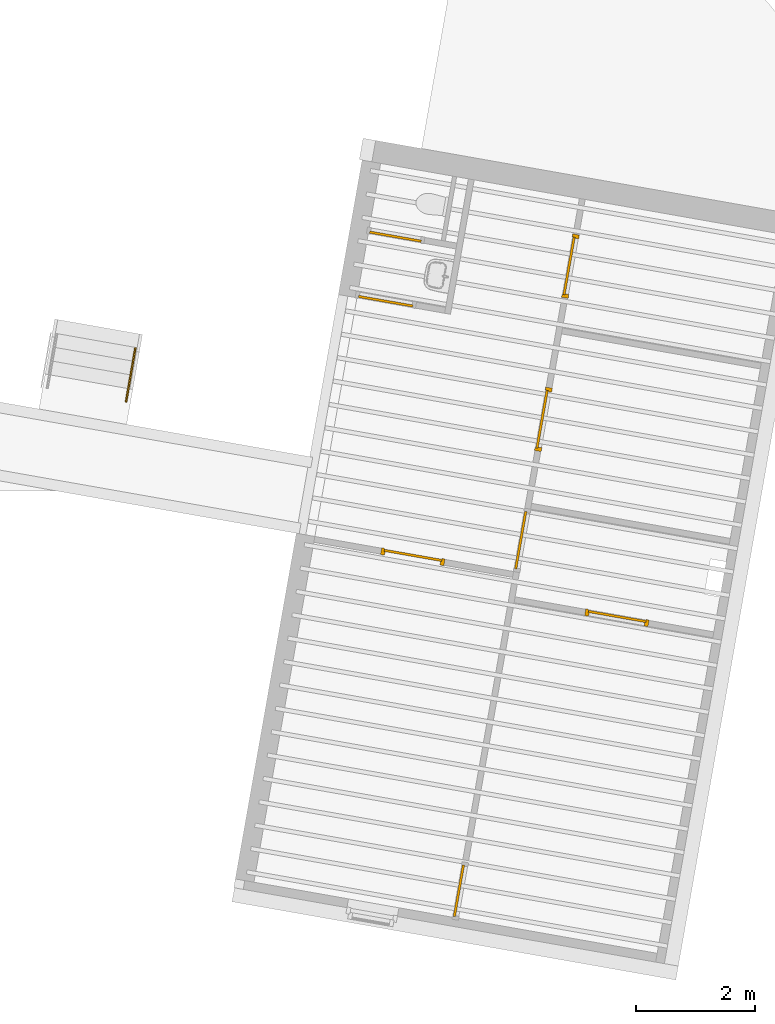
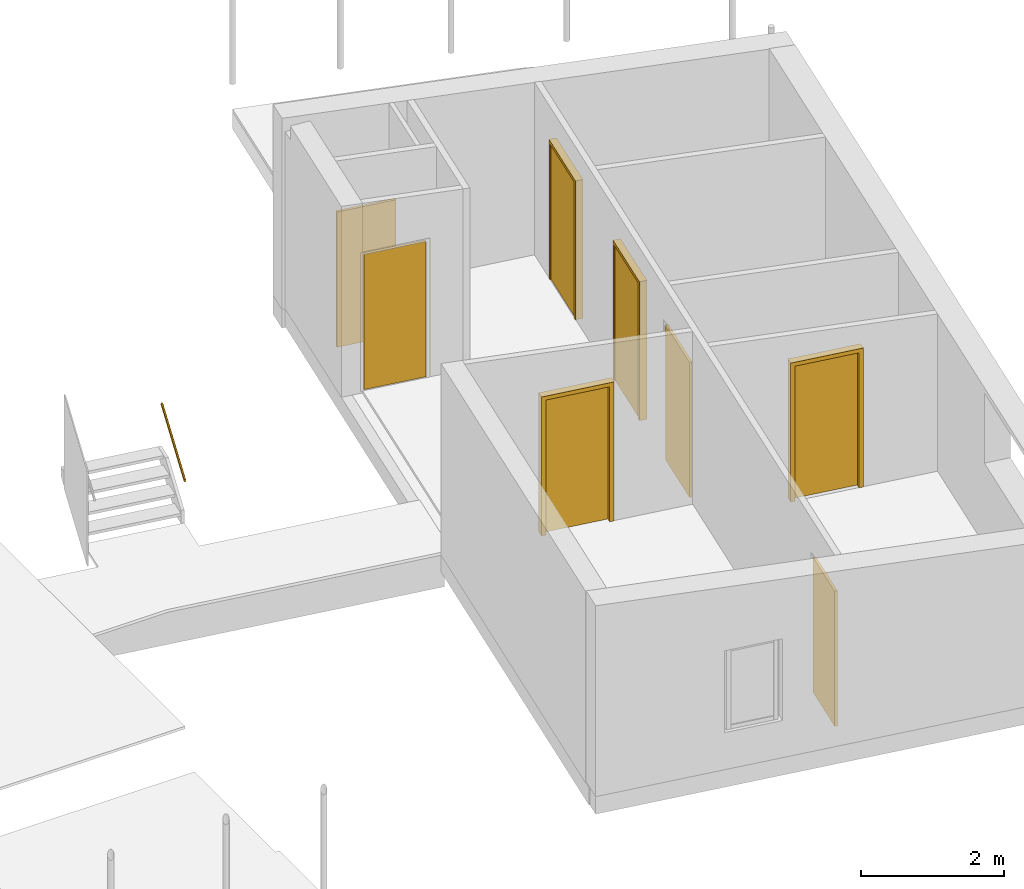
# One storey, part 6 of 7: 12 doors, 1 railing, 1 element without a shape of its own.
"""IFC2X3 building model written with IfcOpenShell, lengths in millimetres."""

from ifc_helpers import new_model, entity, si_unit, converted_unit, derived_unit, direction, frame, origin, origin_2d_with_axis, place, context, subcontext, project, spatial, rectangle, extrude, faceted_brep, source, transform, mapped, material, material_list, type_object, type_shapes, element, aggregate, save


model = new_model("IFC2X3")

# Units and contexts
model_context = context("Model", 3, precision=0.01, world=origin(), true_north=direction((6.12303176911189e-17, 1.0)))
body_context = subcontext(model_context, "Body", "Model", "MODEL_VIEW")
ifc_project = project(units=[si_unit("LENGTHUNIT", "METRE", prefix="MILLI"), si_unit("AREAUNIT", "SQUARE_METRE"), si_unit("VOLUMEUNIT", "CUBIC_METRE"), converted_unit("PLANEANGLEUNIT", "DEGREE", entity("IfcRatioMeasure", 0.0174532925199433), si_unit("PLANEANGLEUNIT", "RADIAN"), dimensions=[0, 0, 0, 0, 0, 0, 0]), si_unit("MASSUNIT", "GRAM", prefix="KILO"), derived_unit("MASSDENSITYUNIT", [(si_unit("MASSUNIT", "GRAM", prefix="KILO"), 1), (si_unit("LENGTHUNIT", "METRE"), -3)]), derived_unit("MOMENTOFINERTIAUNIT", [(si_unit("LENGTHUNIT", "METRE"), 4)]), si_unit("TIMEUNIT", "SECOND"), si_unit("FREQUENCYUNIT", "HERTZ"), si_unit("THERMODYNAMICTEMPERATUREUNIT", "DEGREE_CELSIUS"), derived_unit("THERMALTRANSMITTANCEUNIT", [(si_unit("MASSUNIT", "GRAM", prefix="KILO"), 1), (si_unit("THERMODYNAMICTEMPERATUREUNIT", "KELVIN"), -1), (si_unit("TIMEUNIT", "SECOND"), -3)]), derived_unit("VOLUMETRICFLOWRATEUNIT", [(si_unit("LENGTHUNIT", "METRE"), 3), (si_unit("TIMEUNIT", "SECOND"), -1)]), si_unit("ELECTRICCURRENTUNIT", "AMPERE"), si_unit("ELECTRICVOLTAGEUNIT", "VOLT"), si_unit("POWERUNIT", "WATT"), si_unit("FORCEUNIT", "NEWTON", prefix="KILO"), si_unit("ILLUMINANCEUNIT", "LUX"), si_unit("LUMINOUSFLUXUNIT", "LUMEN"), si_unit("LUMINOUSINTENSITYUNIT", "CANDELA"), derived_unit("USERDEFINED", [(si_unit("MASSUNIT", "GRAM", prefix="KILO"), -1), (si_unit("LENGTHUNIT", "METRE"), -2), (si_unit("TIMEUNIT", "SECOND"), 3), (si_unit("LUMINOUSFLUXUNIT", "LUMEN"), 1)]), derived_unit("LINEARVELOCITYUNIT", [(si_unit("LENGTHUNIT", "METRE"), 1), (si_unit("TIMEUNIT", "SECOND"), -1)]), si_unit("PRESSUREUNIT", "PASCAL"), derived_unit("USERDEFINED", [(si_unit("LENGTHUNIT", "METRE"), -2), (si_unit("MASSUNIT", "GRAM", prefix="KILO"), 1), (si_unit("TIMEUNIT", "SECOND"), -2)]), derived_unit("LINEARFORCEUNIT", [(si_unit("MASSUNIT", "GRAM", prefix="KILO"), 1), (si_unit("LENGTHUNIT", "METRE"), 1), (si_unit("TIMEUNIT", "SECOND"), -2), (si_unit("LENGTHUNIT", "METRE"), -1)]), derived_unit("PLANARFORCEUNIT", [(si_unit("MASSUNIT", "GRAM", prefix="KILO"), 1), (si_unit("LENGTHUNIT", "METRE"), 1), (si_unit("TIMEUNIT", "SECOND"), -2), (si_unit("LENGTHUNIT", "METRE"), -2)])], contexts=[model_context])

# Site, building, storey
site_placement = place(None, origin())
site = spatial("IfcSite", under=ifc_project, at=site_placement, Name="<Kadaster Gemeente>;<Kadaster nummer>;<Kadaster sectie>", CompositionType="ELEMENT")
building_placement = place(site_placement, origin())
building = spatial("IfcBuilding", under=site, at=building_placement, Name="JRCZ Middelburg", CompositionType="ELEMENT")
storey_placement = place(building_placement, frame((0.0, 0.0, 3000.0)))
storey = spatial("IfcBuildingStorey", under=building, at=storey_placement, Name="01 eerste verdieping", CompositionType="ELEMENT", Elevation=3000.0)

# Doors
ifc_material = material(Name="<Unnamed>")
ifc_material_list_1 = material_list([ifc_material, ifc_material])
door_style_1 = type_object("IfcDoorStyle", Name="NLRS_32_DO_ISR_onderdeel deur-SH_generiek_ISR:dichte deur_gen", ConstructionType="USERDEFINED", OperationType="SINGLE_SWING_RIGHT", ParameterTakesPrecedence=False, Sizeable=False, material=ifc_material_list_1)
shared_shape_1 = source(origin(), body_context, "Body", "SweptSolid", [
    extrude(rectangle(XDim=929.999999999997, YDim=40.0, at=origin_2d_with_axis()), frame((0.0, 20.0, 0.0), z_axis=(0.0, 0.0, 1.0), x_axis=(-1.0, 0.0, 0.0)), (0.0, 0.0, 1.0), 2315.0),
])
type_shapes(door_style_1, [shared_shape_1])
door_1_placement = place(storey_placement, frame((24280.5330340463, 16792.7089152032, 10.0), z_axis=(0.0, 0.0, 1.0), x_axis=(0.984807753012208, -0.173648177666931, 0.0)))
element("IfcDoor", 1, at=door_1_placement, inside=storey, type_object=door_style_1, material=ifc_material, Name="NLRS_32_DO_ISR_onderdeel deur-SH_generiek_ISR:dichte deur_gen", ObjectType="NLRS_32_DO_ISR_onderdeel deur-SH_generiek_ISR:dichte deur_gen", OverallHeight=2315.0, OverallWidth=930.000000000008, context=body_context, shape_type="MappedRepresentation", body=[
    mapped(shared_shape_1, transform((0.0, 0.0, 0.0), scale=1.0)),
])
ifc_material_list_2 = material_list([ifc_material, ifc_material])
door_style_2 = type_object("IfcDoorStyle", Name="NLRS_32_DO_ISR_onderdeel deur-SH_generiek_ISR:dichte deur_gen", ConstructionType="USERDEFINED", OperationType="SINGLE_SWING_RIGHT", ParameterTakesPrecedence=False, Sizeable=False, material=ifc_material_list_2)
shared_shape_2 = source(origin(), body_context, "Body", "SweptSolid", [
    extrude(rectangle(XDim=40.0, YDim=979.999999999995, at=origin_2d_with_axis()), frame((0.0, -20.0, 0.0), z_axis=(0.0, 0.0, 1.0), x_axis=(0.0, 1.0, 0.0)), (0.0, 0.0, 1.0), 2315.0),
])
type_shapes(door_style_2, [shared_shape_2])
door_2_placement = place(storey_placement, frame((26541.863905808, 12790.2262246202, 10.0), z_axis=(0.0, 0.0, 1.0), x_axis=(0.17364817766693, 0.984807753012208, 0.0)))
element("IfcDoor", 2, at=door_2_placement, inside=storey, type_object=door_style_2, material=ifc_material, Name="NLRS_32_DO_ISR_onderdeel deur-SH_generiek_ISR:dichte deur_gen", ObjectType="NLRS_32_DO_ISR_onderdeel deur-SH_generiek_ISR:dichte deur_gen", OverallHeight=2315.0, OverallWidth=980.000000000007, context=body_context, shape_type="MappedRepresentation", body=[
    mapped(shared_shape_2, transform((0.0, 0.0, 0.0), scale=1.0)),
])
ifc_material_list_3 = material_list([ifc_material, ifc_material, ifc_material])
ifc_material_list_4 = material_list([ifc_material, ifc_material])
door_style_3 = type_object("IfcDoorStyle", Name="NLRS_32_DO_UN_samenstelling binnenkozijn hout-SH_generiek_ISR:enkele deur_gen", ConstructionType="USERDEFINED", OperationType="NOTDEFINED", ParameterTakesPrecedence=False, Sizeable=False, material=ifc_material_list_4)
shared_shape_3 = source(origin(), body_context, "Body", "Brep", [
    faceted_brep([(492.0, 0.0, 0.0), (492.0, 54.0, 0.0), (475.0, 54.0, 0.0), (475.0, 114.0, 0.0), (542.0, 114.0, 0.0), (542.0, 0.0, 0.0), (492.0, 0.0, 2327.0), (492.0, 54.0, 2327.0), (492.0, 54.0, 2310.0), (475.0, 54.0, 2310.0), (475.0, 114.0, 2310.0), (542.0, 114.0, 2310.0), (542.0, 54.0, 2310.0), (542.0, 54.0, 2327.0), (542.0, 0.0, 2327.0)], [[[0, 1, 2, 3, 4, 5]], [[6, 7, 8, 1, 0]], [[2, 1, 8, 9]], [[3, 2, 9, 10]], [[4, 3, 10, 11]], [[5, 4, 11, 12, 13, 14]], [[14, 6, 0, 5]], [[6, 14, 13, 7]], [[8, 12, 11, 10, 9]], [[12, 8, 7, 13]]]),
    faceted_brep([(-542.0, 0.0, 2327.0), (-542.0, 0.0, 2377.0), (-542.0, 114.0, 2377.0), (-542.0, 114.0, 2310.0), (-542.0, 54.0, 2310.0), (-542.0, 54.0, 2327.0), (542.0, 0.0, 2327.0), (542.0, 54.0, 2327.0), (542.0, 54.0, 2310.0), (542.0, 114.0, 2310.0), (542.0, 114.0, 2377.0), (542.0, 0.0, 2377.0)], [[[0, 1, 2, 3, 4, 5]], [[6, 7, 8, 9, 10, 11]], [[5, 7, 6, 0]], [[4, 8, 7, 5]], [[3, 9, 8, 4]], [[2, 10, 9, 3]], [[1, 11, 10, 2]], [[0, 6, 11, 1]]]),
    faceted_brep([(-492.0, 0.0, 0.0), (-542.0, 0.0, 0.0), (-542.0, 114.0, 0.0), (-475.0, 114.0, 0.0), (-475.0, 54.0, 0.0), (-492.0, 54.0, 0.0), (-492.0, 0.0, 2327.0), (-492.0, 54.0, 2310.0), (-492.0, 54.0, 2327.0), (-475.0, 54.0, 2310.0), (-475.0, 114.0, 2310.0), (-542.0, 114.0, 2310.0), (-542.0, 0.0, 2327.0), (-542.0, 54.0, 2327.0), (-542.0, 54.0, 2310.0)], [[[0, 1, 2, 3, 4, 5]], [[6, 0, 5, 7, 8]], [[4, 9, 7, 5]], [[3, 10, 9, 4]], [[2, 11, 10, 3]], [[1, 12, 13, 14, 11, 2]], [[12, 1, 0, 6]], [[6, 8, 13, 12]], [[7, 9, 10, 11, 14]], [[14, 13, 8, 7]]]),
])
type_shapes(door_style_3, [shared_shape_3])
door_3_placement = place(storey_placement, frame((26887.5283250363, 14831.2093478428, 0.0), z_axis=(0.0, 0.0, 1.0), x_axis=(-0.17364817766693, -0.984807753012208, 0.0)))
element("IfcDoor", 3, at=door_3_placement, inside=storey, type_object=door_style_3, material=ifc_material_list_3, Name="NLRS_32_DO_UN_samenstelling binnenkozijn hout-SH_generiek_ISR:enkele deur_gen", ObjectType="NLRS_32_DO_UN_samenstelling binnenkozijn hout-SH_generiek_ISR:enkele deur_gen", OverallHeight=2377.00000000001, OverallWidth=1084.0, context=body_context, shape_type="MappedRepresentation", body=[
    mapped(shared_shape_3, transform((0.0, 0.0, 0.0), scale=1.0)),
])
ifc_material_list_5 = material_list([ifc_material, ifc_material, ifc_material])
door_4_placement = place(storey_placement, frame((27342.833846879, 17413.3752762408, 0.0), z_axis=(0.0, 0.0, 1.0), x_axis=(-0.17364817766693, -0.984807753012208, 0.0)))
element("IfcDoor", 4, at=door_4_placement, inside=storey, type_object=door_style_3, material=ifc_material_list_5, Name="NLRS_32_DO_UN_samenstelling binnenkozijn hout-SH_generiek_ISR:enkele deur_gen", ObjectType="NLRS_32_DO_UN_samenstelling binnenkozijn hout-SH_generiek_ISR:enkele deur_gen", OverallHeight=2377.00000000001, OverallWidth=1084.0, context=body_context, shape_type="MappedRepresentation", body=[
    mapped(shared_shape_3, transform((0.0, 0.0, 0.0), scale=1.0)),
])
ifc_material_list_6 = material_list([ifc_material, ifc_material, ifc_material])
door_5_placement = place(storey_placement, frame((24752.1383723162, 12562.5498868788, 0.0), z_axis=(0.0, 0.0, 1.0), x_axis=(-0.984807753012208, 0.173648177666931, 0.0)))
element("IfcDoor", 5, at=door_5_placement, inside=storey, type_object=door_style_3, material=ifc_material_list_6, Name="NLRS_32_DO_UN_samenstelling binnenkozijn hout-SH_generiek_ISR:enkele deur_gen", ObjectType="NLRS_32_DO_UN_samenstelling binnenkozijn hout-SH_generiek_ISR:enkele deur_gen", OverallHeight=2377.00000000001, OverallWidth=1084.0, context=body_context, shape_type="MappedRepresentation", body=[
    mapped(shared_shape_3, transform((0.0, 0.0, 0.0), scale=1.0)),
])
ifc_material_list_7 = material_list([ifc_material, ifc_material, ifc_material])
door_6_placement = place(storey_placement, frame((28191.7251776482, 11533.6404600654, 0.0), z_axis=(0.0, 0.0, 1.0), x_axis=(-0.984807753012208, 0.173648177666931, 0.0)))
element("IfcDoor", 6, at=door_6_placement, inside=storey, type_object=door_style_3, material=ifc_material_list_7, Name="NLRS_32_DO_UN_samenstelling binnenkozijn hout-SH_generiek_ISR:enkele deur_gen", ObjectType="NLRS_32_DO_UN_samenstelling binnenkozijn hout-SH_generiek_ISR:enkele deur_gen", OverallHeight=2377.00000000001, OverallWidth=1084.0, context=body_context, shape_type="MappedRepresentation", body=[
    mapped(shared_shape_3, transform((0.0, 0.0, 0.0), scale=1.0)),
])
ifc_material_list_8 = material_list([ifc_material, ifc_material])
door_style_4 = type_object("IfcDoorStyle", Name="NLRS_32_DO_ISR_onderdeel deur-SH_generiek_ISR:dichte deur_gen", ConstructionType="USERDEFINED", OperationType="SINGLE_SWING_RIGHT", ParameterTakesPrecedence=False, Sizeable=False, material=ifc_material_list_8)
shared_shape_4 = source(origin(), body_context, "Body", "SweptSolid", [
    extrude(rectangle(XDim=979.999999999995, YDim=40.0, at=origin_2d_with_axis()), frame((0.0, 20.0, 0.0), z_axis=(0.0, 0.0, 1.0), x_axis=(-1.0, 0.0, 0.0)), (0.0, 0.0, 1.0), 2315.0),
])
type_shapes(door_style_4, [shared_shape_4])
for number, where, z_axis, x_axis in (
    (7, (26901.3156335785, 14828.7782733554, 10.0), (0.0, 0.0, 1.0), (-0.17364817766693, -0.984807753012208, 0.0)),
    (8, (27356.6211554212, 17410.9442017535, 10.0), (0.0, 0.0, 1.0), (-0.17364817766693, -0.984807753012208, 0.0)),
    (9, (24749.7072978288, 12548.7625783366, 10.0), (0.0, 0.0, 1.0), (-0.984807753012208, 0.173648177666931, 0.0)),
    (10, (28189.2941031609, 11519.8531515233, 10.0), (0.0, 0.0, 1.0), (-0.984807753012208, 0.173648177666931, 0.0)),
):
    element("IfcDoor", number, at=place(storey_placement, frame(where, z_axis=z_axis, x_axis=x_axis)), inside=storey, type_object=door_style_4, material=ifc_material, Name="NLRS_32_DO_ISR_onderdeel deur-SH_generiek_ISR:dichte deur_gen", ObjectType="NLRS_32_DO_ISR_onderdeel deur-SH_generiek_ISR:dichte deur_gen", OverallHeight=2315.0, OverallWidth=980.000000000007, context=body_context, shape_type="MappedRepresentation", body=[
        mapped(shared_shape_4, transform((0.0, 0.0, 0.0), scale=1.0)),
    ])
ifc_material_list_9 = material_list([ifc_material, ifc_material])
door_style_5 = type_object("IfcDoorStyle", Name="NLRS_32_DO_ISR_onderdeel deur-SH_generiek_ISR:dichte deur_gen", ConstructionType="USERDEFINED", OperationType="SINGLE_SWING_RIGHT", ParameterTakesPrecedence=False, Sizeable=False, material=ifc_material_list_9)
shared_shape_5 = source(origin(), body_context, "Body", "SweptSolid", [
    extrude(rectangle(XDim=879.999999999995, YDim=40.0, at=origin_2d_with_axis()), frame((0.0, 20.0, 0.0), z_axis=(0.0, 0.0, 1.0), x_axis=(-1.0, 0.0, 0.0)), (0.0, 0.0, 1.0), 2315.0),
])
type_shapes(door_style_5, [shared_shape_5])
door_7_placement = place(storey_placement, frame((24446.9258356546, 17880.3386479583, 10.0), z_axis=(0.0, 0.0, 1.0), x_axis=(0.984807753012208, -0.173648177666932, 0.0)))
element("IfcDoor", 11, at=door_7_placement, inside=storey, type_object=door_style_5, material=ifc_material, Name="NLRS_32_DO_ISR_onderdeel deur-SH_generiek_ISR:dichte deur_gen", ObjectType="NLRS_32_DO_ISR_onderdeel deur-SH_generiek_ISR:dichte deur_gen", OverallHeight=2315.0, OverallWidth=880.000000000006, context=body_context, shape_type="MappedRepresentation", body=[
    mapped(shared_shape_5, transform((0.0, 0.0, 0.0), scale=1.0)),
])
ifc_material_list_10 = material_list([ifc_material, ifc_material])
door_style_6 = type_object("IfcDoorStyle", Name="NLRS_32_DO_ISR_onderdeel deur-SH_generiek_ISR:dichte deur_gen", ConstructionType="USERDEFINED", OperationType="SINGLE_SWING_RIGHT", ParameterTakesPrecedence=False, Sizeable=False, material=ifc_material_list_10)
shared_shape_6 = source(origin(), body_context, "Body", "SweptSolid", [
    extrude(rectangle(XDim=40.0, YDim=879.999999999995, at=origin_2d_with_axis()), frame((0.0, -20.0, 0.0), z_axis=(0.0, 0.0, 1.0), x_axis=(0.0, 1.0, 0.0)), (0.0, 0.0, 1.0), 2315.0),
])
type_shapes(door_style_6, [shared_shape_6])
door_8_placement = place(storey_placement, frame((25499.9748398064, 6881.37970654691, 10.0), z_axis=(0.0, 0.0, 1.0), x_axis=(0.17364817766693, 0.984807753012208, 0.0)))
element("IfcDoor", 12, at=door_8_placement, inside=storey, type_object=door_style_6, material=ifc_material, Name="NLRS_32_DO_ISR_onderdeel deur-SH_generiek_ISR:dichte deur_gen", ObjectType="NLRS_32_DO_ISR_onderdeel deur-SH_generiek_ISR:dichte deur_gen", OverallHeight=2315.0, OverallWidth=880.000000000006, context=body_context, shape_type="MappedRepresentation", body=[
    mapped(shared_shape_6, transform((0.0, 0.0, 0.0), scale=1.0)),
])

# Stair, railing
stair_placement = place(storey_placement, origin())
stair = element("IfcStair", 13, at=stair_placement, inside=storey, Name="Assembled Stair:Stair", ObjectType="Assembled Stair:RBM_ST_houten trap", ShapeType="STRAIGHT_RUN_STAIR")
railing_placement = place(stair_placement, frame((19888.876604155, 15104.4620729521, 866.663048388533)))
railing = element("IfcRailing", 14, at=railing_placement, material=ifc_material, Name="Railing:RBM_RA_handleuning", ObjectType="Railing:RBM_RA_handleuning", PredefinedType="NOTDEFINED", context=body_context, shape_type="Brep", body=[
    faceted_brep([(29.7498490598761, 3.2231689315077, 4.77741160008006), (32.0960637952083, 2.81619475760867, 9.91982965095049), (34.4422785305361, 2.4092205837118, 15.0622477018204), (36.788493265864, 2.00224640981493, 20.2046657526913), (39.1347080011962, 1.5952722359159, 25.3470838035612), (37.5239575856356, 1.87467284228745, 28.8775159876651), (35.9132071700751, 2.15407344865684, 32.4079481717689), (34.3024567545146, 2.43347405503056, 35.9383803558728), (32.6917063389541, 2.71287466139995, 39.4688125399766), (29.7498490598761, 3.2231689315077, 45.9167560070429), (25.0574195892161, 4.0371172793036, 45.9167560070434), (20.364990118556, 4.85106562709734, 45.9167560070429), (15.672560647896, 5.66501397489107, 45.9167560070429), (10.980131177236, 6.47896232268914, 45.9167560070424), (8.63391644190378, 6.885936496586, 40.774337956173), (6.2877017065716, 7.29291067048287, 35.6319199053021), (4.81677306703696, 7.54805780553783, 32.4079481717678), (3.2060226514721, 7.82745841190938, 28.877515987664), (1.5952722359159, 8.10685901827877, 25.3470838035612), (3.20602265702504, 7.82745841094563, 21.8166516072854), (4.81677307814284, 7.54805780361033, 18.2862194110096), (6.2877017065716, 7.29291067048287, 15.0622477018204), (8.63391644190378, 6.885936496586, 9.91982965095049), (10.980131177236, 6.47896232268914, 4.77741160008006), (15.672560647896, 5.66501397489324, 4.77741160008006), (20.364990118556, 4.85106562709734, 4.77741160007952), (25.0574195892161, 4.0371172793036, 4.77741160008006), (168.379570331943, 931.360227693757, 709.863411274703), (166.768819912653, 931.639628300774, 713.393843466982), (165.158069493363, 931.919028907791, 716.924275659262), (163.547319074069, 932.198429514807, 720.454707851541), (161.936568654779, 932.477830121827, 723.98514004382), (164.282783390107, 932.070855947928, 729.127558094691), (166.628998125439, 931.663881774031, 734.269976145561), (168.975212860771, 931.256907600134, 739.412394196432), (171.321427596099, 930.849933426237, 744.554812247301), (176.013857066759, 930.035985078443, 744.554812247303), (180.706286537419, 929.222036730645, 744.554812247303), (185.398716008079, 928.408088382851, 744.554812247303), (190.091145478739, 927.594140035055, 744.554812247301), (192.437360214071, 927.187165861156, 739.412394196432), (194.783574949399, 926.78019168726, 734.269976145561), (197.129789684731, 926.373217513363, 729.127558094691), (199.476004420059, 925.966243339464, 723.98514004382), (197.865254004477, 926.245643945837, 720.454707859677), (196.254503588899, 926.525044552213, 716.924275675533), (194.783574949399, 926.78019168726, 713.700303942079), (192.437360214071, 927.187165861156, 708.55788589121), (190.091145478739, 927.594140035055, 703.415467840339), (185.398716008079, 928.408088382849, 703.41546784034), (180.706286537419, 929.222036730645, 703.41546784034), (176.013857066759, 930.035985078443, 703.415467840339), (171.321427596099, 930.849933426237, 703.415467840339)], [[[0, 1, 2, 3, 4, 5, 6, 7, 8, 9, 10, 11, 12, 13, 14, 15, 16, 17, 18, 19, 20, 21, 22, 23, 24, 25, 26]], [[27, 28, 29, 30, 31, 32, 33, 34, 35, 36, 37, 38, 39, 40, 41, 42, 43, 44, 45, 46, 47, 48, 49, 50, 51, 52]], [[9, 8, 7, 6, 5, 4, 43, 42, 41, 40, 39]], [[15, 14, 13, 35, 34, 33, 32, 31, 18, 17, 16]], [[11, 10, 9, 39, 38, 37, 36, 35, 13, 12]], [[21, 20, 19, 18, 31, 30, 29, 28, 27, 52, 23, 22]], [[50, 49, 48, 0, 26, 25, 24, 23, 52, 51]], [[45, 44, 43, 4, 3, 2, 1, 0, 48, 47, 46]]]),
])
aggregate(stair, [railing])

save(model, "model.ifc")
